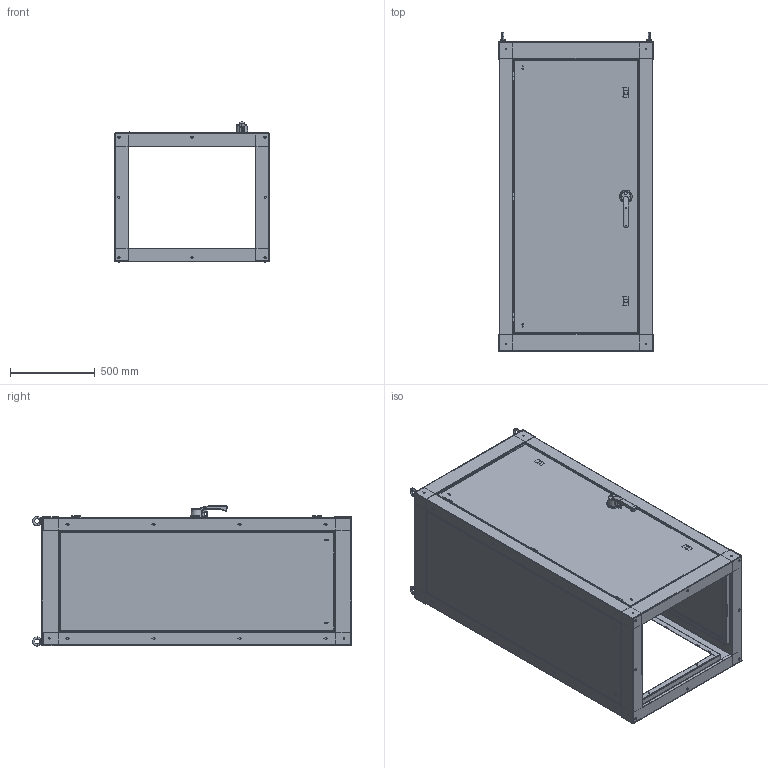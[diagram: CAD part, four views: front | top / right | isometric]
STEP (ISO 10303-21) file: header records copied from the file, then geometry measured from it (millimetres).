
FILE_DESCRIPTION (( 'STEP AP203' ), '1' );
FILE_NAME ('WFHD3E723630.STEP', '2011-06-14T12:52:48', ( 'Hoffman User' ), ( 'Hoffman Enclosures' ), 'SwSTEP 2.0', 'SolidWorks 2010', '' );
FILE_SCHEMA (( 'CONFIG_CONTROL_DESIGN' ));
Length unit declared in the file: inch
Products named in the file (30): 27301003; 89067082; 89068143; 89049773; 99404049_99404049; 50612100; 27438002; 27439102; 35261001; 26274024_26274024; 26273024_26273024; 30101003; 27115001; 22318002; 35124002_35124002; 87780090; 35131001_35131001; 26118002_26118002; 27115004; WFHD3E723630; 89049776; 89068141; 89049764; 89049777; 89066909; 89067081; 89068153; 89066912; 89049780; 89049782
Assembly tree (56 placements, depth 4):
  WFHD3E723630
    27115004  x2
    50612100  x4
    26118002_26118002  x2
    89049780
      89067082  x3
      89049782
      99404049_99404049  x2
      27301003  x2
    35131001_35131001
    89049776
      89068141  x2
        99404049_99404049
        89049764
      89049777  x2
      89068153
        89066912
        99404049_99404049  x2
      89066909
        89066912
        89067081  x3
        99404049_99404049  x2
    87780090  x3
    27438002
    89068143  x2
      89049773
      99404049_99404049
    27439102
    26274024_26274024  x2
      27115001
      26273024_26273024
      30101003
      22318002
    35261001
    35124002_35124002
Bounding box: 914.4 x 1883.99 x 828.99 mm (x, y, z)
Volume: 20398800.4 mm3; surface area: 14550330.6 mm2
Topology: 60 solids, 62 shells, 4489 faces, 11491 edges, 7257 vertices
Faces by surface type: plane 2556, cylinder 1169, cone 335, bspline 272, torus 154, sphere 3
Entity records: 71784 total; most frequent: CARTESIAN_POINT 22564, ORIENTED_EDGE 9492, DIRECTION 9125, EDGE_CURVE 4746, AXIS2_PLACEMENT_3D 3135, VERTEX_POINT 2946, LINE 2855, VECTOR 2855
